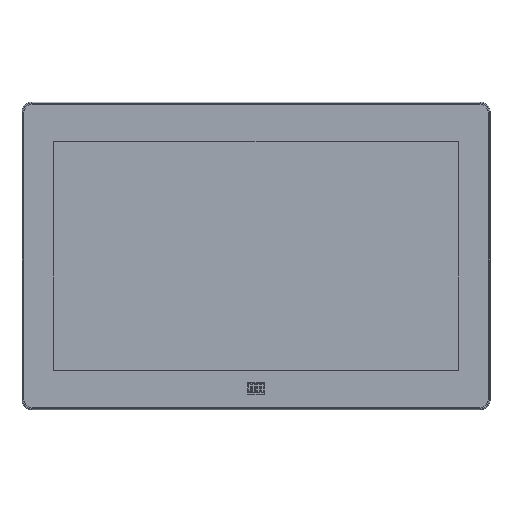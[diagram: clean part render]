
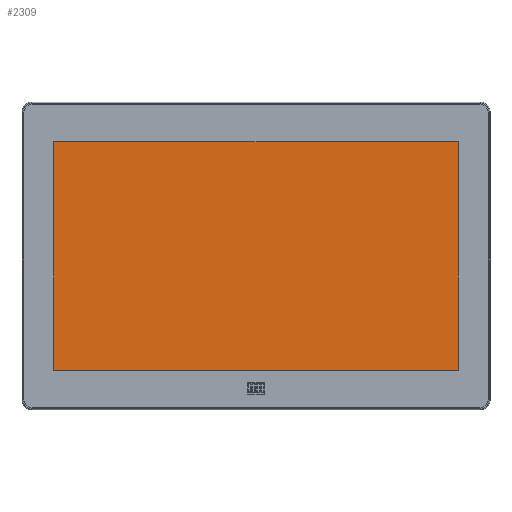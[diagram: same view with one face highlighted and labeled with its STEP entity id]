
A CAD part, top view. The second image highlights one B-rep face of the part: STEP entity #2309.
In plain terms, the highlighted planar face has unit normal (0, 0, 1).
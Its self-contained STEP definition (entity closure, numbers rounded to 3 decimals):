
#19 = DIRECTION ( 'NONE',  ( 0., 1., 0. ) ) ;
#101 = CARTESIAN_POINT ( 'NONE',  ( -172.774, 97.485, 26.59 ) ) ;
#178 = DIRECTION ( 'NONE',  ( 1., 0., 0. ) ) ;
#184 = VERTEX_POINT ( 'NONE', #1879 ) ;
#193 = EDGE_CURVE ( 'NONE', #184, #1691, #1317, .T. ) ;
#239 = CARTESIAN_POINT ( 'NONE',  ( 172.774, -97.485, 26.59 ) ) ;
#257 = FACE_OUTER_BOUND ( 'NONE', #1258, .T. ) ;
#286 = VECTOR ( 'NONE', #2082, 1000. ) ;
#387 = EDGE_CURVE ( 'NONE', #1771, #184, #1165, .T. ) ;
#430 = DIRECTION ( 'NONE',  ( 0., 0., 1. ) ) ;
#469 = EDGE_CURVE ( 'NONE', #1655, #1771, #2285, .T. ) ;
#488 = CARTESIAN_POINT ( 'NONE',  ( 172.774, 97.485, 26.59 ) ) ;
#578 = ORIENTED_EDGE ( 'NONE', *, *, #469, .T. ) ;
#722 = CARTESIAN_POINT ( 'NONE',  ( -172.774, -97.485, 26.59 ) ) ;
#895 = VECTOR ( 'NONE', #19, 1000. ) ;
#1165 = LINE ( 'NONE', #2016, #2365 ) ;
#1258 = EDGE_LOOP ( 'NONE', ( #2363, #1539, #578, #2883 ) ) ;
#1317 = LINE ( 'NONE', #101, #286 ) ;
#1480 = AXIS2_PLACEMENT_3D ( 'NONE', #1670, #430, #178 ) ;
#1539 = ORIENTED_EDGE ( 'NONE', *, *, #2833, .T. ) ;
#1655 = VERTEX_POINT ( 'NONE', #239 ) ;
#1670 = CARTESIAN_POINT ( 'NONE',  ( 0., 0., 26.59 ) ) ;
#1691 = VERTEX_POINT ( 'NONE', #722 ) ;
#1699 = CARTESIAN_POINT ( 'NONE',  ( -172.774, -97.485, 26.59 ) ) ;
#1771 = VERTEX_POINT ( 'NONE', #488 ) ;
#1879 = CARTESIAN_POINT ( 'NONE',  ( -172.774, 97.485, 26.59 ) ) ;
#2016 = CARTESIAN_POINT ( 'NONE',  ( 172.774, 97.485, 26.59 ) ) ;
#2082 = DIRECTION ( 'NONE',  ( 0., -1., 0. ) ) ;
#2285 = LINE ( 'NONE', #2696, #895 ) ;
#2309 = ADVANCED_FACE ( 'NONE', ( #257 ), #3104, .T. ) ;
#2363 = ORIENTED_EDGE ( 'NONE', *, *, #193, .T. ) ;
#2365 = VECTOR ( 'NONE', #2923, 1000. ) ;
#2696 = CARTESIAN_POINT ( 'NONE',  ( 172.774, -97.485, 26.59 ) ) ;
#2713 = LINE ( 'NONE', #1699, #2744 ) ;
#2744 = VECTOR ( 'NONE', #3155, 1000. ) ;
#2833 = EDGE_CURVE ( 'NONE', #1691, #1655, #2713, .T. ) ;
#2883 = ORIENTED_EDGE ( 'NONE', *, *, #387, .T. ) ;
#2923 = DIRECTION ( 'NONE',  ( -1., 0., 0. ) ) ;
#3104 = PLANE ( 'NONE',  #1480 ) ;
#3155 = DIRECTION ( 'NONE',  ( 1., 0., 0. ) ) ;
